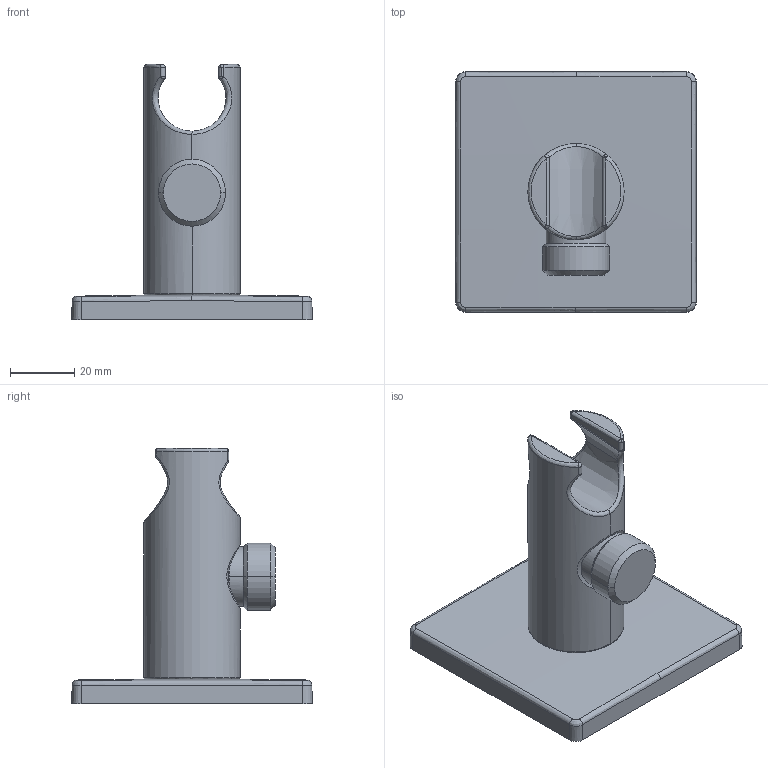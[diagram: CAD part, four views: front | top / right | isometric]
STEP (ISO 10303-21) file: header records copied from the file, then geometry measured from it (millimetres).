
FILE_DESCRIPTION (( 'STEP AP203' ), '1' );
FILE_NAME ('290041(2026).STEP', '2025-08-13T11:31:18', ( '' ), ( '' ), 'SwSTEP 2.0', 'SolidWorks 2024', '' );
FILE_SCHEMA (( 'CONFIG_CONTROL_DESIGN' ));
Length unit declared in the file: millimetre
Products named in the file (1): 290041(2026)
Bounding box: 74.99 x 74.99 x 79.81 mm (x, y, z)
Volume: 85698.9 mm3; surface area: 20902.7 mm2
Topology: 1 solids, 1 shells, 81 faces, 211 edges, 123 vertices
Faces by surface type: bspline 44, cone 14, cylinder 12, plane 11
Entity records: 5054 total; most frequent: CARTESIAN_POINT 3352, ORIENTED_EDGE 394, DIRECTION 292, EDGE_CURVE 197, AXIS2_PLACEMENT_3D 128, VERTEX_POINT 123, CIRCLE 90, EDGE_LOOP 86
